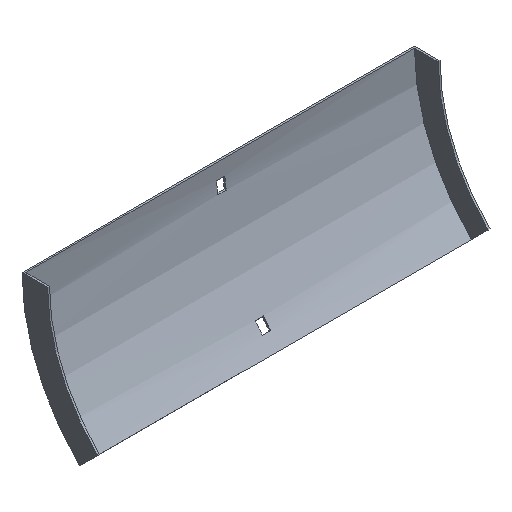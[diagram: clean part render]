
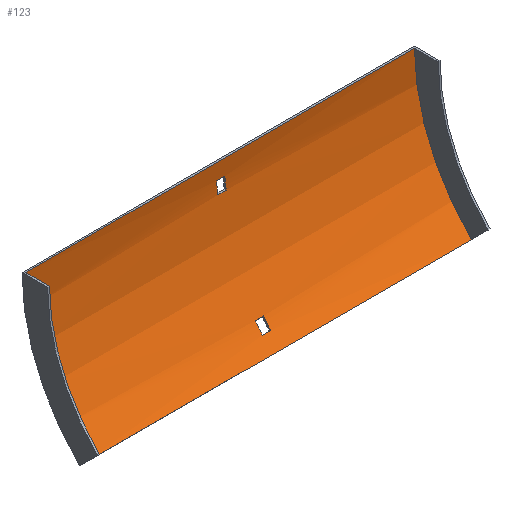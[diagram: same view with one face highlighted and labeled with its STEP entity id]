
A CAD part, isometric view. The second image highlights one B-rep face of the part: STEP entity #123.
In plain terms, the highlighted cylindrical face has radius 152 mm (diameter 304 mm), a partial arc.
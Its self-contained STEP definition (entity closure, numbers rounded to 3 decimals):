
#1 = CARTESIAN_POINT ( 'NONE',  ( -3.25, -32.201, -91.6 ) ) ;
#14 = LINE ( 'NONE', #529, #178 ) ;
#19 = AXIS2_PLACEMENT_3D ( 'NONE', #548, #224, #173 ) ;
#25 = DIRECTION ( 'NONE',  ( 0., 0., 1. ) ) ;
#48 = EDGE_CURVE ( 'NONE', #475, #267, #373, .T. ) ;
#49 = ORIENTED_EDGE ( 'NONE', *, *, #151, .F. ) ;
#50 = LINE ( 'NONE', #112, #410 ) ;
#60 = VECTOR ( 'NONE', #430, 1000. ) ;
#79 = AXIS2_PLACEMENT_3D ( 'NONE', #334, #277, #233 ) ;
#80 = EDGE_CURVE ( 'NONE', #174, #419, #387, .T. ) ;
#82 = CYLINDRICAL_SURFACE ( 'NONE', #375, 152. ) ;
#88 = DIRECTION ( 'NONE',  ( 0., 0., 1. ) ) ;
#101 = LINE ( 'NONE', #418, #306 ) ;
#111 = EDGE_CURVE ( 'NONE', #331, #367, #467, .T. ) ;
#112 = CARTESIAN_POINT ( 'NONE',  ( 153.5, -37.87, -98.659 ) ) ;
#117 = AXIS2_PLACEMENT_3D ( 'NONE', #175, #554, #363 ) ;
#119 = CARTESIAN_POINT ( 'NONE',  ( 3.25, -32.201, -91.6 ) ) ;
#123 = ADVANCED_FACE ( 'NONE', ( #513, #124, #313 ), #82, .F. ) ;
#124 = FACE_OUTER_BOUND ( 'NONE', #527, .T. ) ;
#132 = EDGE_CURVE ( 'NONE', #367, #486, #221, .T. ) ;
#136 = DIRECTION ( 'NONE',  ( 0., 0., -1. ) ) ;
#147 = EDGE_LOOP ( 'NONE', ( #247, #394, #561, #254 ) ) ;
#151 = EDGE_CURVE ( 'NONE', #218, #603, #454, .T. ) ;
#158 = CARTESIAN_POINT ( 'NONE',  ( -3.25, -37.87, -98.659 ) ) ;
#165 = ORIENTED_EDGE ( 'NONE', *, *, #413, .T. ) ;
#169 = AXIS2_PLACEMENT_3D ( 'NONE', #371, #332, #136 ) ;
#172 = EDGE_CURVE ( 'NONE', #348, #331, #545, .T. ) ;
#173 = DIRECTION ( 'NONE',  ( 0., 0., 1. ) ) ;
#174 = VERTEX_POINT ( 'NONE', #414 ) ;
#175 = CARTESIAN_POINT ( 'NONE',  ( 152., -153.5, 0. ) ) ;
#178 = VECTOR ( 'NONE', #452, 1000. ) ;
#179 = DIRECTION ( 'NONE',  ( 0., 0., 1. ) ) ;
#192 = CARTESIAN_POINT ( 'NONE',  ( 153.5, -1.974, -12. ) ) ;
#218 = VERTEX_POINT ( 'NONE', #524 ) ;
#220 = EDGE_LOOP ( 'NONE', ( #437, #374, #544, #340 ) ) ;
#221 = CIRCLE ( 'NONE', #19, 152. ) ;
#224 = DIRECTION ( 'NONE',  ( -1., 0., 0. ) ) ;
#227 = EDGE_CURVE ( 'NONE', #523, #566, #101, .T. ) ;
#233 = DIRECTION ( 'NONE',  ( 0., 0., -1. ) ) ;
#245 = CARTESIAN_POINT ( 'NONE',  ( 152., -46.02, -107.48 ) ) ;
#247 = ORIENTED_EDGE ( 'NONE', *, *, #391, .T. ) ;
#254 = ORIENTED_EDGE ( 'NONE', *, *, #132, .T. ) ;
#261 = CIRCLE ( 'NONE', #397, 152. ) ;
#267 = VERTEX_POINT ( 'NONE', #599 ) ;
#277 = DIRECTION ( 'NONE',  ( 1., 0., 0. ) ) ;
#282 = DIRECTION ( 'NONE',  ( 1., 0., 0. ) ) ;
#296 = CARTESIAN_POINT ( 'NONE',  ( 3.25, -1.974, -12. ) ) ;
#306 = VECTOR ( 'NONE', #282, 1000. ) ;
#313 = FACE_BOUND ( 'NONE', #147, .T. ) ;
#328 = EDGE_CURVE ( 'NONE', #174, #218, #568, .T. ) ;
#329 = CARTESIAN_POINT ( 'NONE',  ( 153.5, -32.201, -91.6 ) ) ;
#331 = VERTEX_POINT ( 'NONE', #1 ) ;
#332 = DIRECTION ( 'NONE',  ( 1., 0., 0. ) ) ;
#334 = CARTESIAN_POINT ( 'NONE',  ( -3.25, -153.5, 0. ) ) ;
#340 = ORIENTED_EDGE ( 'NONE', *, *, #227, .F. ) ;
#345 = DIRECTION ( 'NONE',  ( -1., 0., 0. ) ) ;
#348 = VERTEX_POINT ( 'NONE', #158 ) ;
#352 = CARTESIAN_POINT ( 'NONE',  ( 152., -1.5, 0. ) ) ;
#363 = DIRECTION ( 'NONE',  ( 0., 0., 1. ) ) ;
#367 = VERTEX_POINT ( 'NONE', #119 ) ;
#371 = CARTESIAN_POINT ( 'NONE',  ( 3.25, -153.5, 0. ) ) ;
#372 = DIRECTION ( 'NONE',  ( -1., 0., 0. ) ) ;
#373 = LINE ( 'NONE', #192, #433 ) ;
#374 = ORIENTED_EDGE ( 'NONE', *, *, #48, .F. ) ;
#375 = AXIS2_PLACEMENT_3D ( 'NONE', #503, #372, #179 ) ;
#379 = DIRECTION ( 'NONE',  ( -1., 0., 0. ) ) ;
#384 = DIRECTION ( 'NONE',  ( -1., 0., 0. ) ) ;
#387 = CIRCLE ( 'NONE', #117, 152. ) ;
#391 = EDGE_CURVE ( 'NONE', #486, #348, #50, .T. ) ;
#394 = ORIENTED_EDGE ( 'NONE', *, *, #172, .T. ) ;
#397 = AXIS2_PLACEMENT_3D ( 'NONE', #510, #384, #88 ) ;
#407 = ORIENTED_EDGE ( 'NONE', *, *, #80, .T. ) ;
#410 = VECTOR ( 'NONE', #345, 1000. ) ;
#413 = EDGE_CURVE ( 'NONE', #419, #603, #14, .T. ) ;
#414 = CARTESIAN_POINT ( 'NONE',  ( 152., -46.02, -107.48 ) ) ;
#418 = CARTESIAN_POINT ( 'NONE',  ( 153.5, -2.958, -21. ) ) ;
#419 = VERTEX_POINT ( 'NONE', #352 ) ;
#420 = VECTOR ( 'NONE', #585, 1000. ) ;
#421 = DIRECTION ( 'NONE',  ( 1., 0., 0. ) ) ;
#430 = DIRECTION ( 'NONE',  ( -1., 0., 0. ) ) ;
#433 = VECTOR ( 'NONE', #379, 1000. ) ;
#434 = CIRCLE ( 'NONE', #169, 152. ) ;
#437 = ORIENTED_EDGE ( 'NONE', *, *, #560, .F. ) ;
#438 = CARTESIAN_POINT ( 'NONE',  ( 3.25, -37.87, -98.659 ) ) ;
#452 = DIRECTION ( 'NONE',  ( -1., 0., 0. ) ) ;
#454 = CIRCLE ( 'NONE', #574, 152. ) ;
#467 = LINE ( 'NONE', #329, #420 ) ;
#475 = VERTEX_POINT ( 'NONE', #296 ) ;
#486 = VERTEX_POINT ( 'NONE', #438 ) ;
#501 = ORIENTED_EDGE ( 'NONE', *, *, #328, .F. ) ;
#503 = CARTESIAN_POINT ( 'NONE',  ( 153.5, -153.5, 0. ) ) ;
#505 = CARTESIAN_POINT ( 'NONE',  ( 3.25, -2.958, -21. ) ) ;
#509 = CARTESIAN_POINT ( 'NONE',  ( -152., -153.5, 0. ) ) ;
#510 = CARTESIAN_POINT ( 'NONE',  ( -3.25, -153.5, 0. ) ) ;
#512 = EDGE_CURVE ( 'NONE', #566, #475, #434, .T. ) ;
#513 = FACE_BOUND ( 'NONE', #220, .T. ) ;
#518 = CARTESIAN_POINT ( 'NONE',  ( -3.25, -2.958, -21. ) ) ;
#523 = VERTEX_POINT ( 'NONE', #518 ) ;
#524 = CARTESIAN_POINT ( 'NONE',  ( -152., -46.02, -107.48 ) ) ;
#527 = EDGE_LOOP ( 'NONE', ( #49, #501, #407, #165 ) ) ;
#529 = CARTESIAN_POINT ( 'NONE',  ( 152., -1.5, 0. ) ) ;
#544 = ORIENTED_EDGE ( 'NONE', *, *, #512, .F. ) ;
#545 = CIRCLE ( 'NONE', #79, 152. ) ;
#548 = CARTESIAN_POINT ( 'NONE',  ( 3.25, -153.5, 0. ) ) ;
#554 = DIRECTION ( 'NONE',  ( 1., 0., 0. ) ) ;
#560 = EDGE_CURVE ( 'NONE', #267, #523, #261, .T. ) ;
#561 = ORIENTED_EDGE ( 'NONE', *, *, #111, .T. ) ;
#566 = VERTEX_POINT ( 'NONE', #505 ) ;
#568 = LINE ( 'NONE', #245, #60 ) ;
#574 = AXIS2_PLACEMENT_3D ( 'NONE', #509, #421, #25 ) ;
#585 = DIRECTION ( 'NONE',  ( 1., 0., 0. ) ) ;
#595 = CARTESIAN_POINT ( 'NONE',  ( -152., -1.5, 0. ) ) ;
#599 = CARTESIAN_POINT ( 'NONE',  ( -3.25, -1.974, -12. ) ) ;
#603 = VERTEX_POINT ( 'NONE', #595 ) ;
